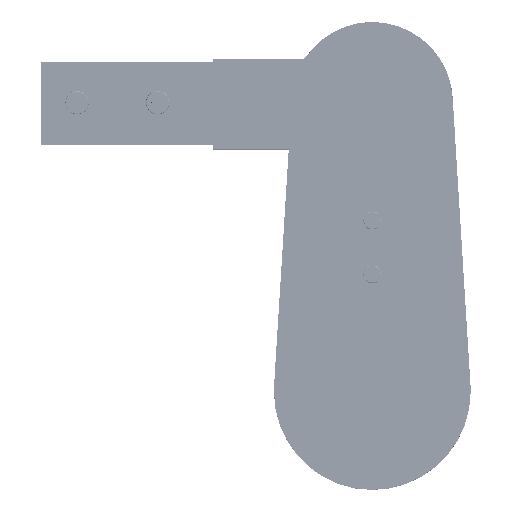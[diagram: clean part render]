
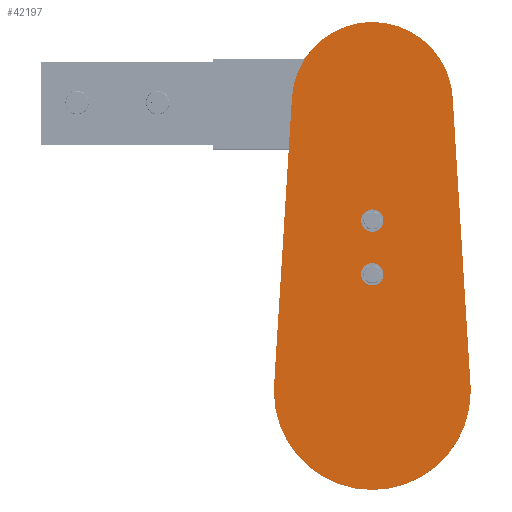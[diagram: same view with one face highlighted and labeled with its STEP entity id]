
A CAD part, top view. The second image highlights one B-rep face of the part: STEP entity #42197.
In plain terms, the highlighted planar face has unit normal (0, 0, 1) as drawn and (0, 0, -1) by its records, which use the part's own axes.
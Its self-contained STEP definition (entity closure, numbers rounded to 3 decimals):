
#964 = EDGE_CURVE ( 'NONE', #42813, #78169, #32378, .T. ) ;
#1243 = CARTESIAN_POINT ( 'NONE',  ( 44.914, 164.286, 0. ) ) ;
#2892 = AXIS2_PLACEMENT_3D ( 'NONE', #4674, #53965, #4987 ) ;
#3237 = EDGE_LOOP ( 'NONE', ( #25497, #70881 ) ) ;
#4674 = CARTESIAN_POINT ( 'NONE',  ( 0., 65.5, 0. ) ) ;
#4746 = DIRECTION ( 'NONE',  ( -0.062, 0.998, 0. ) ) ;
#4987 = DIRECTION ( 'NONE',  ( 1., 0., 0. ) ) ;
#5603 = CIRCLE ( 'NONE', #47134, 3.5 ) ;
#6835 = VERTEX_POINT ( 'NONE', #79475 ) ;
#7316 = DIRECTION ( 'NONE',  ( 1., 0., 0. ) ) ;
#8663 = AXIS2_PLACEMENT_3D ( 'NONE', #52671, #11311, #60242 ) ;
#9598 = ORIENTED_EDGE ( 'NONE', *, *, #48126, .F. ) ;
#9833 = AXIS2_PLACEMENT_3D ( 'NONE', #41996, #63509, #7316 ) ;
#10497 = EDGE_CURVE ( 'NONE', #59097, #35298, #65111, .T. ) ;
#11040 = VECTOR ( 'NONE', #66644, 1000. ) ;
#11311 = DIRECTION ( 'NONE',  ( 0., 0., -1. ) ) ;
#12107 = DIRECTION ( 'NONE',  ( 0., 0., 1. ) ) ;
#13857 = DIRECTION ( 'NONE',  ( 1., 0., 0. ) ) ;
#14730 = CIRCLE ( 'NONE', #19677, 45. ) ;
#15179 = DIRECTION ( 'NONE',  ( 0., 0., 1. ) ) ;
#16101 = FACE_BOUND ( 'NONE', #58932, .T. ) ;
#17109 = CIRCLE ( 'NONE', #8663, 3.5 ) ;
#18078 = CIRCLE ( 'NONE', #9833, 3.5 ) ;
#18275 = FACE_BOUND ( 'NONE', #3237, .T. ) ;
#18432 = VECTOR ( 'NONE', #4746, 1000. ) ;
#18735 = EDGE_LOOP ( 'NONE', ( #9598, #41509, #44204, #69687, #21126, #82531 ) ) ;
#19677 = AXIS2_PLACEMENT_3D ( 'NONE', #63839, #15179, #76869 ) ;
#21126 = ORIENTED_EDGE ( 'NONE', *, *, #88089, .F. ) ;
#21580 = CARTESIAN_POINT ( 'NONE',  ( -55., 0., 0. ) ) ;
#24019 = EDGE_CURVE ( 'NONE', #51012, #81855, #77952, .T. ) ;
#24880 = AXIS2_PLACEMENT_3D ( 'NONE', #39226, #53770, #60122 ) ;
#25497 = ORIENTED_EDGE ( 'NONE', *, *, #57599, .F. ) ;
#25558 = AXIS2_PLACEMENT_3D ( 'NONE', #39245, #12107, #61354 ) ;
#25689 = CARTESIAN_POINT ( 'NONE',  ( -3.5, 65.5, 0. ) ) ;
#28091 = PLANE ( 'NONE',  #50500 ) ;
#28328 = CARTESIAN_POINT ( 'NONE',  ( -54.894, 3.406, 0. ) ) ;
#31982 = CARTESIAN_POINT ( 'NONE',  ( -44.914, 164.286, 0. ) ) ;
#32378 = CIRCLE ( 'NONE', #25558, 55. ) ;
#32848 = CARTESIAN_POINT ( 'NONE',  ( -3.5, 95.5, 0. ) ) ;
#33601 = CARTESIAN_POINT ( 'NONE',  ( 54.894, 3.406, 0. ) ) ;
#34484 = FACE_OUTER_BOUND ( 'NONE', #18735, .T. ) ;
#35298 = VERTEX_POINT ( 'NONE', #82107 ) ;
#36330 = CIRCLE ( 'NONE', #75959, 55. ) ;
#37778 = VERTEX_POINT ( 'NONE', #31982 ) ;
#38680 = VERTEX_POINT ( 'NONE', #28328 ) ;
#38707 = CARTESIAN_POINT ( 'NONE',  ( 55., 0., 0. ) ) ;
#39182 = CARTESIAN_POINT ( 'NONE',  ( 44.914, 164.286, 0. ) ) ;
#39226 = CARTESIAN_POINT ( 'NONE',  ( 0., 0., 0. ) ) ;
#39245 = CARTESIAN_POINT ( 'NONE',  ( 0., 0., 0. ) ) ;
#41509 = ORIENTED_EDGE ( 'NONE', *, *, #24019, .F. ) ;
#41996 = CARTESIAN_POINT ( 'NONE',  ( 0., 95.5, 0. ) ) ;
#42197 = ADVANCED_FACE ( 'NONE', ( #16101, #18275, #34484 ), #28091, .F. ) ;
#42813 = VERTEX_POINT ( 'NONE', #21580 ) ;
#44204 = ORIENTED_EDGE ( 'NONE', *, *, #48368, .F. ) ;
#47134 = AXIS2_PLACEMENT_3D ( 'NONE', #73552, #65358, #66564 ) ;
#47876 = ORIENTED_EDGE ( 'NONE', *, *, #53692, .F. ) ;
#48126 = EDGE_CURVE ( 'NONE', #81855, #37778, #14730, .T. ) ;
#48368 = EDGE_CURVE ( 'NONE', #78169, #51012, #36330, .T. ) ;
#50500 = AXIS2_PLACEMENT_3D ( 'NONE', #83458, #55580, #13857 ) ;
#51012 = VERTEX_POINT ( 'NONE', #33601 ) ;
#52671 = CARTESIAN_POINT ( 'NONE',  ( 0., 95.5, 0. ) ) ;
#53692 = EDGE_CURVE ( 'NONE', #6835, #67804, #17109, .T. ) ;
#53770 = DIRECTION ( 'NONE',  ( 0., 0., 1. ) ) ;
#53965 = DIRECTION ( 'NONE',  ( 0., 0., -1. ) ) ;
#54030 = EDGE_CURVE ( 'NONE', #67804, #6835, #18078, .T. ) ;
#55580 = DIRECTION ( 'NONE',  ( 0., 0., 1. ) ) ;
#57599 = EDGE_CURVE ( 'NONE', #35298, #59097, #5603, .T. ) ;
#58932 = EDGE_LOOP ( 'NONE', ( #47876, #65886 ) ) ;
#59097 = VERTEX_POINT ( 'NONE', #25689 ) ;
#60122 = DIRECTION ( 'NONE',  ( 1., 0., 0. ) ) ;
#60242 = DIRECTION ( 'NONE',  ( 1., 0., 0. ) ) ;
#60309 = CARTESIAN_POINT ( 'NONE',  ( -44.914, 164.286, 0. ) ) ;
#61354 = DIRECTION ( 'NONE',  ( 1., 0., 0. ) ) ;
#61971 = EDGE_CURVE ( 'NONE', #37778, #38680, #70527, .T. ) ;
#63509 = DIRECTION ( 'NONE',  ( 0., 0., -1. ) ) ;
#63839 = CARTESIAN_POINT ( 'NONE',  ( 0., 161.5, 0. ) ) ;
#65111 = CIRCLE ( 'NONE', #2892, 3.5 ) ;
#65358 = DIRECTION ( 'NONE',  ( 0., 0., -1. ) ) ;
#65489 = CIRCLE ( 'NONE', #24880, 55. ) ;
#65886 = ORIENTED_EDGE ( 'NONE', *, *, #54030, .F. ) ;
#66564 = DIRECTION ( 'NONE',  ( 1., 0., 0. ) ) ;
#66644 = DIRECTION ( 'NONE',  ( -0.062, -0.998, 0. ) ) ;
#67405 = DIRECTION ( 'NONE',  ( 1., 0., 0. ) ) ;
#67804 = VERTEX_POINT ( 'NONE', #32848 ) ;
#69687 = ORIENTED_EDGE ( 'NONE', *, *, #964, .F. ) ;
#70527 = LINE ( 'NONE', #60309, #11040 ) ;
#70881 = ORIENTED_EDGE ( 'NONE', *, *, #10497, .F. ) ;
#73552 = CARTESIAN_POINT ( 'NONE',  ( 0., 65.5, 0. ) ) ;
#75312 = DIRECTION ( 'NONE',  ( 0., 0., 1. ) ) ;
#75959 = AXIS2_PLACEMENT_3D ( 'NONE', #82288, #75312, #67405 ) ;
#76869 = DIRECTION ( 'NONE',  ( 1., 0., 0. ) ) ;
#77952 = LINE ( 'NONE', #39182, #18432 ) ;
#78169 = VERTEX_POINT ( 'NONE', #38707 ) ;
#79475 = CARTESIAN_POINT ( 'NONE',  ( 3.5, 95.5, 0. ) ) ;
#81855 = VERTEX_POINT ( 'NONE', #1243 ) ;
#82107 = CARTESIAN_POINT ( 'NONE',  ( 3.5, 65.5, 0. ) ) ;
#82288 = CARTESIAN_POINT ( 'NONE',  ( 0., 0., 0. ) ) ;
#82531 = ORIENTED_EDGE ( 'NONE', *, *, #61971, .F. ) ;
#83458 = CARTESIAN_POINT ( 'NONE',  ( 0., 161.5, 0. ) ) ;
#88089 = EDGE_CURVE ( 'NONE', #38680, #42813, #65489, .T. ) ;
